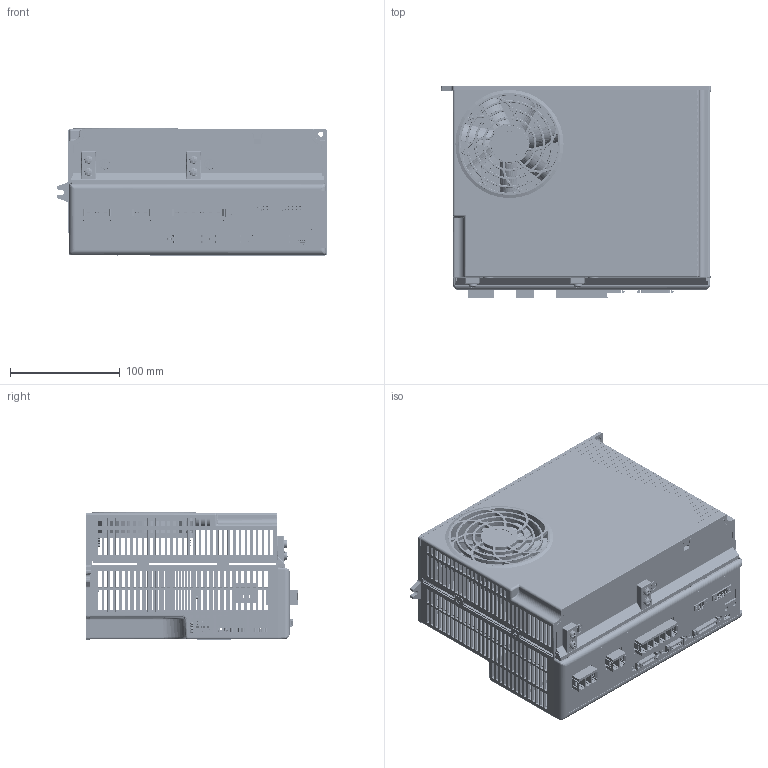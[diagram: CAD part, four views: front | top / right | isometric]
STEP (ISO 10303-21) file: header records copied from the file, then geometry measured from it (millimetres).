
FILE_DESCRIPTION (( 'STEP AP214' ), '1' );
FILE_NAME ('CDHV-2S-12A11.STEP', '2023-03-22T07:12:34', ( '' ), ( '' ), 'SwSTEP 2.0', 'SolidWorks 2016', '' );
FILE_SCHEMA (( 'AUTOMOTIVE_DESIGN' ));
Length unit declared in the file: millimetre
Products named in the file (5): 15EDGRM-3.5-04P-14-00A(H); 400 480 VAC CDHD2S-012; 15EDGRM-3.5-02P-14-00A(H); pcb_power_CDHV12A; CDHV-2S-12A11
Assembly tree (4 placements, depth 2):
  CDHV-2S-12A11
    pcb_power_CDHV12A
    400 480 VAC CDHD2S-012
    15EDGRM-3.5-04P-14-00A(H)
    15EDGRM-3.5-02P-14-00A(H)
Bounding box: 245.36 x 193.5 x 116.37 mm (x, y, z)
Volume: 82194.7 mm3; surface area: 556720.2 mm2
Topology: 3 solids, 103 shells, 15285 faces, 41457 edges, 26580 vertices
Faces by surface type: plane 9714, cylinder 2968, bspline 1549, cone 1004, sphere 50
Entity records: 741476 total; most frequent: CARTESIAN_POINT 204824, ORIENTED_EDGE 82787, DIRECTION 65394, EDGE_CURVE 41404, VECTOR 27688, LINE 27688, VERTEX_POINT 26580, AXIS2_PLACEMENT_3D 18853
